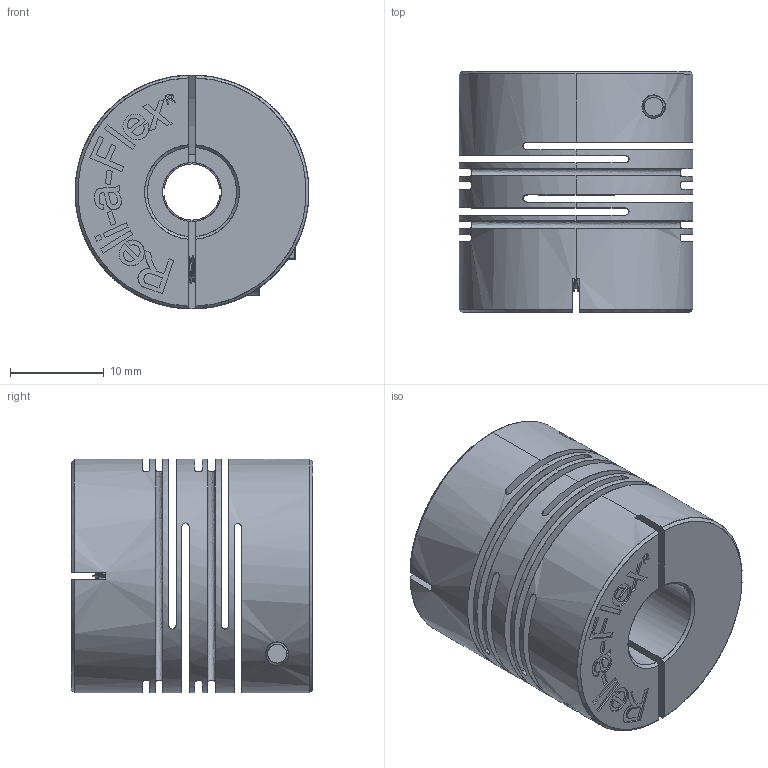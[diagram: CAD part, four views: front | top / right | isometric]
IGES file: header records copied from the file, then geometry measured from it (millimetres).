
Start section: Comment
Global section: file name: RCSA25C-0.375-6.igs; native system:  By UGS Corp.; preprocessor: XPlus GENERIC/IGES 3.0; author: Author; organization: Title; date: 20070323.104356; units: inch
Bounding box: 25 x 25.8 x 25 mm (x, y, z)
Surface area: 10387.2 mm2 (no closed solid volume)
Topology: 0 solids, 0 shells, 366 faces, 2678 edges, 2674 vertices
Faces by surface type: bspline 366
